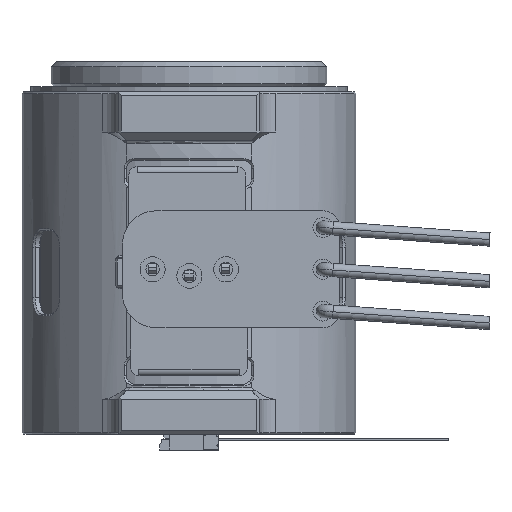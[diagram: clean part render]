
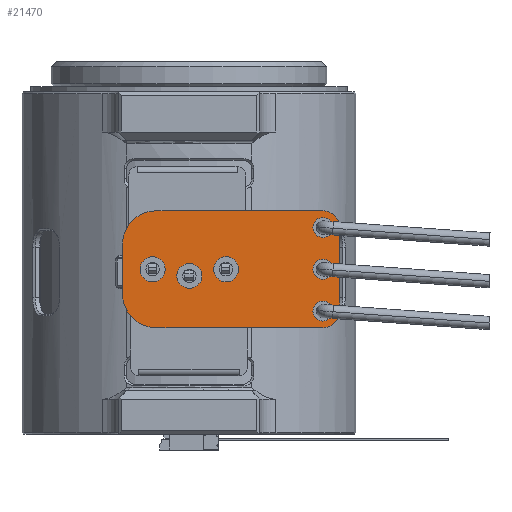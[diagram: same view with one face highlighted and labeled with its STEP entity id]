
A CAD part, left-side view. The second image highlights one B-rep face of the part: STEP entity #21470.
In plain terms, the highlighted planar face has unit normal (-1, 0, 0) as drawn and (0, -1, 0) by its records, which use the part's own axes.
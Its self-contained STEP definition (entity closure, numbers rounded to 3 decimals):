
#20627=CARTESIAN_POINT('',(-2.5,0.,12.));
#20628=DIRECTION('',(0.,1.,0.));
#20629=DIRECTION('',(-1.,0.,0.));
#20630=AXIS2_PLACEMENT_3D('',#20627,#20628,#20629);
#20632=CARTESIAN_POINT('',(2.5,0.,12.));
#20633=DIRECTION('',(0.,1.,0.));
#20634=DIRECTION('',(0.,0.,1.));
#20635=AXIS2_PLACEMENT_3D('',#20632,#20633,#20634);
#20637=CARTESIAN_POINT('',(1.5,0.,2.));
#20638=DIRECTION('',(0.,1.,0.));
#20639=DIRECTION('',(1.,0.,0.));
#20640=AXIS2_PLACEMENT_3D('',#20637,#20638,#20639);
#20642=CARTESIAN_POINT('',(-1.5,0.,2.));
#20643=DIRECTION('',(0.,1.,0.));
#20644=DIRECTION('',(0.,0.,-1.));
#20645=AXIS2_PLACEMENT_3D('',#20642,#20643,#20644);
#20647=CARTESIAN_POINT('',(2.5,0.,12.));
#20648=DIRECTION('',(0.,-1.,0.));
#20649=DIRECTION('',(-1.,0.,0.));
#20650=AXIS2_PLACEMENT_3D('',#20647,#20648,#20649);
#20652=CARTESIAN_POINT('',(2.5,0.,12.));
#20653=DIRECTION('',(0.,-1.,0.));
#20654=DIRECTION('',(1.,0.,0.));
#20655=AXIS2_PLACEMENT_3D('',#20652,#20653,#20654);
#20657=CARTESIAN_POINT('',(0.,0.,12.));
#20658=DIRECTION('',(0.,-1.,0.));
#20659=DIRECTION('',(-1.,0.,0.));
#20660=AXIS2_PLACEMENT_3D('',#20657,#20658,#20659);
#20662=CARTESIAN_POINT('',(0.,0.,12.));
#20663=DIRECTION('',(0.,-1.,0.));
#20664=DIRECTION('',(1.,0.,0.));
#20665=AXIS2_PLACEMENT_3D('',#20662,#20663,#20664);
#20667=CARTESIAN_POINT('',(-2.5,0.,12.));
#20668=DIRECTION('',(0.,-1.,0.));
#20669=DIRECTION('',(-1.,0.,0.));
#20670=AXIS2_PLACEMENT_3D('',#20667,#20668,#20669);
#20672=CARTESIAN_POINT('',(-2.5,0.,12.));
#20673=DIRECTION('',(0.,-1.,0.));
#20674=DIRECTION('',(1.,0.,0.));
#20675=AXIS2_PLACEMENT_3D('',#20672,#20673,#20674);
#20677=CARTESIAN_POINT('',(0.,0.,6.2));
#20678=DIRECTION('',(0.,-1.,0.));
#20679=DIRECTION('',(-1.,0.,0.));
#20680=AXIS2_PLACEMENT_3D('',#20677,#20678,#20679);
#20682=CARTESIAN_POINT('',(0.,0.,6.2));
#20683=DIRECTION('',(0.,-1.,0.));
#20684=DIRECTION('',(1.,0.,0.));
#20685=AXIS2_PLACEMENT_3D('',#20682,#20683,#20684);
#20687=CARTESIAN_POINT('',(0.4,0.,4.));
#20688=DIRECTION('',(0.,-1.,0.));
#20689=DIRECTION('',(-1.,0.,0.));
#20690=AXIS2_PLACEMENT_3D('',#20687,#20688,#20689);
#20692=CARTESIAN_POINT('',(0.4,0.,4.));
#20693=DIRECTION('',(0.,-1.,0.));
#20694=DIRECTION('',(1.,0.,0.));
#20695=AXIS2_PLACEMENT_3D('',#20692,#20693,#20694);
#20697=CARTESIAN_POINT('',(0.,0.,1.8));
#20698=DIRECTION('',(0.,-1.,0.));
#20699=DIRECTION('',(-1.,0.,0.));
#20700=AXIS2_PLACEMENT_3D('',#20697,#20698,#20699);
#20702=CARTESIAN_POINT('',(0.,0.,1.8));
#20703=DIRECTION('',(0.,-1.,0.));
#20704=DIRECTION('',(1.,0.,0.));
#20705=AXIS2_PLACEMENT_3D('',#20702,#20703,#20704);
#20715=DIRECTION('',(0.,0.,-1.));
#20716=VECTOR('',#20715,10.);
#20717=CARTESIAN_POINT('',(-3.5,0.,12.));
#20718=LINE('',#20717,#20716);
#20727=DIRECTION('',(1.,0.,0.));
#20728=VECTOR('',#20727,3.);
#20729=CARTESIAN_POINT('',(-1.5,0.,0.));
#20730=LINE('',#20729,#20728);
#20739=DIRECTION('',(0.,0.,1.));
#20740=VECTOR('',#20739,10.);
#20741=CARTESIAN_POINT('',(3.5,0.,2.));
#20742=LINE('',#20741,#20740);
#20751=DIRECTION('',(-1.,0.,0.));
#20752=VECTOR('',#20751,5.);
#20753=CARTESIAN_POINT('',(2.5,0.,13.));
#20754=LINE('',#20753,#20752);
#21235=CARTESIAN_POINT('',(-3.5,0.,12.));
#21236=CARTESIAN_POINT('',(-2.5,0.,13.));
#21237=VERTEX_POINT('',#21235);
#21238=VERTEX_POINT('',#21236);
#21239=CARTESIAN_POINT('',(2.5,0.,13.));
#21240=VERTEX_POINT('',#21239);
#21241=CARTESIAN_POINT('',(3.5,0.,12.));
#21242=VERTEX_POINT('',#21241);
#21243=CARTESIAN_POINT('',(3.5,0.,2.));
#21244=VERTEX_POINT('',#21243);
#21245=CARTESIAN_POINT('',(1.5,0.,0.));
#21246=VERTEX_POINT('',#21245);
#21247=CARTESIAN_POINT('',(-1.5,0.,0.));
#21248=VERTEX_POINT('',#21247);
#21249=CARTESIAN_POINT('',(-3.5,0.,2.));
#21250=VERTEX_POINT('',#21249);
#21251=CARTESIAN_POINT('',(1.9,0.,12.));
#21252=CARTESIAN_POINT('',(3.1,0.,12.));
#21253=VERTEX_POINT('',#21251);
#21254=VERTEX_POINT('',#21252);
#21255=CARTESIAN_POINT('',(-0.6,0.,12.));
#21256=CARTESIAN_POINT('',(0.6,0.,12.));
#21257=VERTEX_POINT('',#21255);
#21258=VERTEX_POINT('',#21256);
#21259=CARTESIAN_POINT('',(-3.1,0.,12.));
#21260=CARTESIAN_POINT('',(-1.9,0.,12.));
#21261=VERTEX_POINT('',#21259);
#21262=VERTEX_POINT('',#21260);
#21263=CARTESIAN_POINT('',(-0.75,0.,6.2));
#21264=CARTESIAN_POINT('',(0.75,0.,6.2));
#21265=VERTEX_POINT('',#21263);
#21266=VERTEX_POINT('',#21264);
#21267=CARTESIAN_POINT('',(-0.35,0.,4.));
#21268=CARTESIAN_POINT('',(1.15,0.,4.));
#21269=VERTEX_POINT('',#21267);
#21270=VERTEX_POINT('',#21268);
#21271=CARTESIAN_POINT('',(-0.75,0.,1.8));
#21272=CARTESIAN_POINT('',(0.75,0.,1.8));
#21273=VERTEX_POINT('',#21271);
#21274=VERTEX_POINT('',#21272);
#21411=CARTESIAN_POINT('',(0.,0.,0.));
#21412=DIRECTION('',(0.,1.,0.));
#21413=DIRECTION('',(1.,0.,0.));
#21414=AXIS2_PLACEMENT_3D('',#21411,#21412,#21413);
#21415=PLANE('',#21414);
#21417=ORIENTED_EDGE('',*,*,#21416,.T.);
#21419=ORIENTED_EDGE('',*,*,#21418,.F.);
#21421=ORIENTED_EDGE('',*,*,#21420,.T.);
#21423=ORIENTED_EDGE('',*,*,#21422,.F.);
#21425=ORIENTED_EDGE('',*,*,#21424,.T.);
#21427=ORIENTED_EDGE('',*,*,#21426,.F.);
#21429=ORIENTED_EDGE('',*,*,#21428,.T.);
#21431=ORIENTED_EDGE('',*,*,#21430,.F.);
#21432=EDGE_LOOP('',(#21417,#21419,#21421,#21423,#21425,#21427,#21429,#21431));
#21433=FACE_OUTER_BOUND('',#21432,.F.);
#21435=ORIENTED_EDGE('',*,*,#21434,.T.);
#21437=ORIENTED_EDGE('',*,*,#21436,.T.);
#21438=EDGE_LOOP('',(#21435,#21437));
#21439=FACE_BOUND('',#21438,.F.);
#21441=ORIENTED_EDGE('',*,*,#21440,.T.);
#21443=ORIENTED_EDGE('',*,*,#21442,.T.);
#21444=EDGE_LOOP('',(#21441,#21443));
#21445=FACE_BOUND('',#21444,.F.);
#21447=ORIENTED_EDGE('',*,*,#21446,.T.);
#21449=ORIENTED_EDGE('',*,*,#21448,.T.);
#21450=EDGE_LOOP('',(#21447,#21449));
#21451=FACE_BOUND('',#21450,.F.);
#21453=ORIENTED_EDGE('',*,*,#21452,.T.);
#21455=ORIENTED_EDGE('',*,*,#21454,.T.);
#21456=EDGE_LOOP('',(#21453,#21455));
#21457=FACE_BOUND('',#21456,.F.);
#21459=ORIENTED_EDGE('',*,*,#21458,.T.);
#21461=ORIENTED_EDGE('',*,*,#21460,.T.);
#21462=EDGE_LOOP('',(#21459,#21461));
#21463=FACE_BOUND('',#21462,.F.);
#21465=ORIENTED_EDGE('',*,*,#21464,.T.);
#21467=ORIENTED_EDGE('',*,*,#21466,.T.);
#21468=EDGE_LOOP('',(#21465,#21467));
#21469=FACE_BOUND('',#21468,.F.);
#21470=ADVANCED_FACE('',(#21433,#21439,#21445,#21451,#21457,#21463,#21469),
#21415,.F.);
#20631=CIRCLE('',#20630,1.);
#20636=CIRCLE('',#20635,1.);
#20641=CIRCLE('',#20640,2.);
#20646=CIRCLE('',#20645,2.);
#20651=CIRCLE('',#20650,0.6);
#20656=CIRCLE('',#20655,0.6);
#20661=CIRCLE('',#20660,0.6);
#20666=CIRCLE('',#20665,0.6);
#20671=CIRCLE('',#20670,0.6);
#20676=CIRCLE('',#20675,0.6);
#20681=CIRCLE('',#20680,0.75);
#20686=CIRCLE('',#20685,0.75);
#20691=CIRCLE('',#20690,0.75);
#20696=CIRCLE('',#20695,0.75);
#20701=CIRCLE('',#20700,0.75);
#20706=CIRCLE('',#20705,0.75);
#21416=EDGE_CURVE('',#21237,#21238,#20631,.T.);
#21418=EDGE_CURVE('',#21240,#21238,#20754,.T.);
#21420=EDGE_CURVE('',#21240,#21242,#20636,.T.);
#21422=EDGE_CURVE('',#21244,#21242,#20742,.T.);
#21424=EDGE_CURVE('',#21244,#21246,#20641,.T.);
#21426=EDGE_CURVE('',#21248,#21246,#20730,.T.);
#21428=EDGE_CURVE('',#21248,#21250,#20646,.T.);
#21430=EDGE_CURVE('',#21237,#21250,#20718,.T.);
#21434=EDGE_CURVE('',#21253,#21254,#20651,.T.);
#21436=EDGE_CURVE('',#21254,#21253,#20656,.T.);
#21440=EDGE_CURVE('',#21257,#21258,#20661,.T.);
#21442=EDGE_CURVE('',#21258,#21257,#20666,.T.);
#21446=EDGE_CURVE('',#21261,#21262,#20671,.T.);
#21448=EDGE_CURVE('',#21262,#21261,#20676,.T.);
#21452=EDGE_CURVE('',#21265,#21266,#20681,.T.);
#21454=EDGE_CURVE('',#21266,#21265,#20686,.T.);
#21458=EDGE_CURVE('',#21269,#21270,#20691,.T.);
#21460=EDGE_CURVE('',#21270,#21269,#20696,.T.);
#21464=EDGE_CURVE('',#21273,#21274,#20701,.T.);
#21466=EDGE_CURVE('',#21274,#21273,#20706,.T.);
